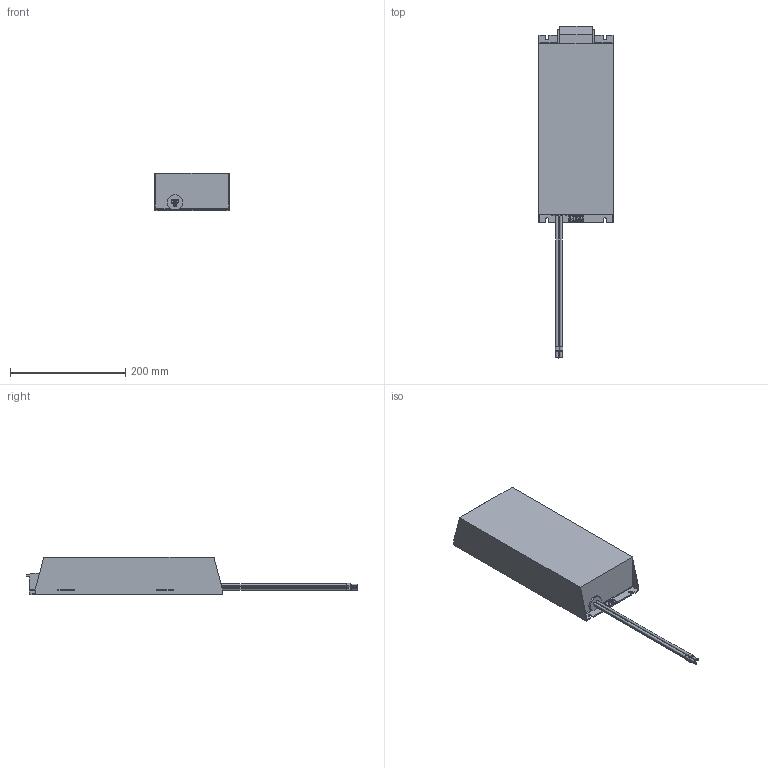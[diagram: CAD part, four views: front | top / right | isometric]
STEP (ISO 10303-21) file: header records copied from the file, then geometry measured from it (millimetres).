
FILE_DESCRIPTION (( 'STEP AP214' ), '1' );
FILE_NAME ('00E6X00-0016.STEP', '2023-07-11T09:37:07', ( '' ), ( '' ), 'SwSTEP 2.0', 'SolidWorks 2022', '' );
FILE_SCHEMA (( 'AUTOMOTIVE_DESIGN' ));
Length unit declared in the file: millimetre
Products named in the file (1): 00E6X00-0016
Bounding box: 130 x 575.9 x 65 mm (x, y, z)
Volume: 2559764.4 mm3; surface area: 158853.9 mm2
Topology: 1 solids, 1 shells, 196 faces, 505 edges, 330 vertices
Faces by surface type: plane 120, cylinder 57, bspline 13, cone 6
Entity records: 6860 total; most frequent: CARTESIAN_POINT 1947, ORIENTED_EDGE 1010, DIRECTION 883, EDGE_CURVE 505, VERTEX_POINT 330, LINE 311, VECTOR 311, AXIS2_PLACEMENT_3D 286
